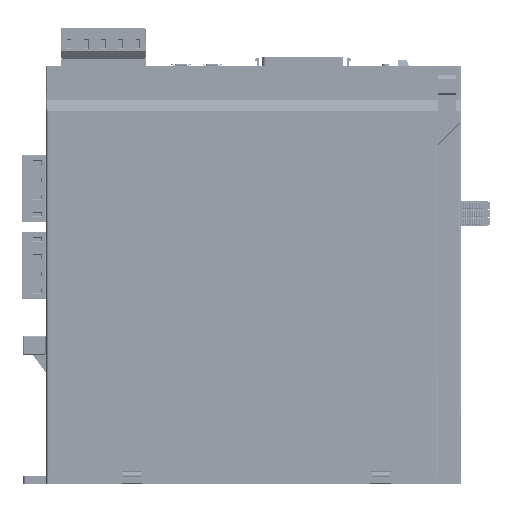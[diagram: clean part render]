
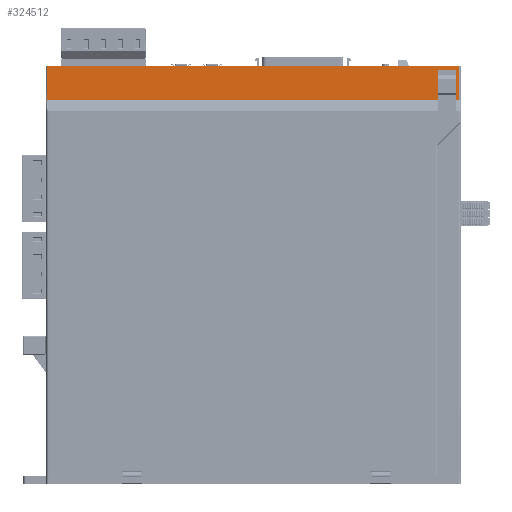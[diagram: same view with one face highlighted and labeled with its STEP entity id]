
A CAD part, front view. The second image highlights one B-rep face of the part: STEP entity #324512.
In plain terms, the highlighted planar face has unit normal (0, -1, 0) as drawn and (0, 0, 1) by its records, which use the part's own axes.
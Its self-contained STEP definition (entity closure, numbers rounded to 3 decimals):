
#299602=DIRECTION('',(1.,0.,0.));
#299603=VECTOR('',#299602,1.);
#299604=CARTESIAN_POINT('',(88.5,163.8,25.5));
#299605=LINE('',#299604,#299603);
#299634=DIRECTION('',(1.,0.,0.));
#299635=VECTOR('',#299634,170.7);
#299636=CARTESIAN_POINT('',(-90.2,163.8,25.5));
#299637=LINE('',#299636,#299635);
#304804=DIRECTION('',(-1.,0.,0.));
#304805=VECTOR('',#304804,179.7);
#304806=CARTESIAN_POINT('',(89.5,178.5,25.5));
#304807=LINE('',#304806,#304805);
#304808=DIRECTION('',(0.,-1.,0.));
#304809=VECTOR('',#304808,14.7);
#304810=CARTESIAN_POINT('',(89.5,178.5,25.5));
#304811=LINE('',#304810,#304809);
#304812=DIRECTION('',(0.,1.,0.));
#304813=VECTOR('',#304812,13.);
#304814=CARTESIAN_POINT('',(88.5,163.8,25.5));
#304815=LINE('',#304814,#304813);
#304816=DIRECTION('',(-1.,0.,0.));
#304817=VECTOR('',#304816,8.);
#304818=CARTESIAN_POINT('',(88.5,176.8,25.5));
#304819=LINE('',#304818,#304817);
#304820=DIRECTION('',(0.,1.,0.));
#304821=VECTOR('',#304820,13.);
#304822=CARTESIAN_POINT('',(80.5,163.8,25.5));
#304823=LINE('',#304822,#304821);
#304824=DIRECTION('',(0.,1.,0.));
#304825=VECTOR('',#304824,14.7);
#304826=CARTESIAN_POINT('',(-90.2,163.8,25.5));
#304827=LINE('',#304826,#304825);
#306670=CARTESIAN_POINT('',(88.5,163.8,25.5));
#306671=VERTEX_POINT('',#306670);
#306672=CARTESIAN_POINT('',(88.5,176.8,25.5));
#306673=VERTEX_POINT('',#306672);
#306674=CARTESIAN_POINT('',(80.5,176.8,25.5));
#306675=VERTEX_POINT('',#306674);
#306676=CARTESIAN_POINT('',(80.5,163.8,25.5));
#306677=VERTEX_POINT('',#306676);
#307436=CARTESIAN_POINT('',(89.5,163.8,25.5));
#307438=VERTEX_POINT('',#307436);
#307468=CARTESIAN_POINT('',(89.5,178.5,25.5));
#307469=VERTEX_POINT('',#307468);
#307474=CARTESIAN_POINT('',(-90.2,178.5,25.5));
#307475=VERTEX_POINT('',#307474);
#307486=CARTESIAN_POINT('',(-90.2,163.8,25.5));
#307487=VERTEX_POINT('',#307486);
#324494=CARTESIAN_POINT('',(90.5,178.8,25.5));
#324495=DIRECTION('',(0.,0.,-1.));
#324496=DIRECTION('',(-1.,0.,0.));
#324497=AXIS2_PLACEMENT_3D('',#324494,#324495,#324496);
#324498=PLANE('',#324497);
#324499=ORIENTED_EDGE('',*,*,#311378,.F.);
#324500=ORIENTED_EDGE('',*,*,#311408,.T.);
#324501=ORIENTED_EDGE('',*,*,#316845,.F.);
#324503=ORIENTED_EDGE('',*,*,#324502,.T.);
#324505=ORIENTED_EDGE('',*,*,#324504,.T.);
#324506=ORIENTED_EDGE('',*,*,#324474,.F.);
#324507=ORIENTED_EDGE('',*,*,#316859,.F.);
#324509=ORIENTED_EDGE('',*,*,#324508,.T.);
#324510=EDGE_LOOP('',(#324499,#324500,#324501,#324503,#324505,#324506,#324507,
#324509));
#324511=FACE_OUTER_BOUND('',#324510,.F.);
#324512=ADVANCED_FACE('',(#324511),#324498,.F.);
#311378=EDGE_CURVE('',#307469,#307475,#304807,.T.);
#311408=EDGE_CURVE('',#307469,#307438,#304811,.T.);
#316845=EDGE_CURVE('',#306671,#307438,#299605,.T.);
#316859=EDGE_CURVE('',#307487,#306677,#299637,.T.);
#324474=EDGE_CURVE('',#306677,#306675,#304823,.T.);
#324502=EDGE_CURVE('',#306671,#306673,#304815,.T.);
#324504=EDGE_CURVE('',#306673,#306675,#304819,.T.);
#324508=EDGE_CURVE('',#307487,#307475,#304827,.T.);
